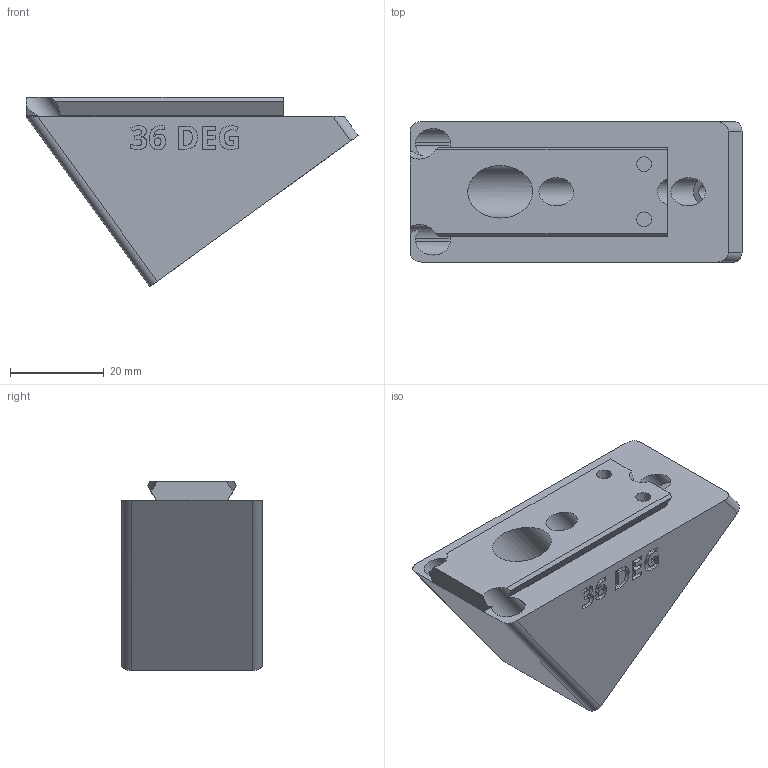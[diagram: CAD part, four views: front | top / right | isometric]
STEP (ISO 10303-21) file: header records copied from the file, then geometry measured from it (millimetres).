
FILE_DESCRIPTION(/* description */ ('STEP AP242 Edition 2','CAx-IF Rec.Pracs.---Representation and Presentation of Product Manufacturing Information (PMI)---4.0---2014-10-13','CAx-IF Rec.Pracs.---3D Tessellated Geometry---0.4---2014-09-14','2;1','CAx-IF Rec.Pracs.---User Defined Attributes---1.5---2016-08-15'),/* implementation_level */ '2;1');
FILE_NAME(/* name */ 'Camera Wedges - CAMERA MOUNTING WEDGE, POS, 36 DEG',/* time_stamp */ '2026-07-08T20:39:58Z',/* author */ (''),/* organization */ (''),/* preprocessor_version */ 'ST-DEVELOPER v20',/* originating_system */ 'ONSHAPE BY PTC INC, 1.217',/* authorisation */ ' ');
FILE_SCHEMA (('AP242_MANAGED_MODEL_BASED_3D_ENGINEERING_MIM_LF { 1 0 10303 442 3 1 4 }'));
Length unit declared in the file: metre
Products named in the file (1): CAMERA MOUNTING WEDGE, POS, 36 DEG
Bounding box: 70.92 x 30 x 40.47 mm (x, y, z)
Volume: 37234.1 mm3; surface area: 12384.8 mm2
Topology: 1 solids, 1 shells, 280 faces, 775 edges, 517 vertices
Faces by surface type: plane 127, bspline 104, cylinder 49
Full cylindrical faces by diameter (mm): 3.2 x4, 6 x2, 6.4 x1, 11.2 x1
Entity records: 9248 total; most frequent: CARTESIAN_POINT 2703, ORIENTED_EDGE 1528, DIRECTION 1020, EDGE_CURVE 764, VERTEX_POINT 514, LINE 446, VECTOR 446, EDGE_LOOP 318
